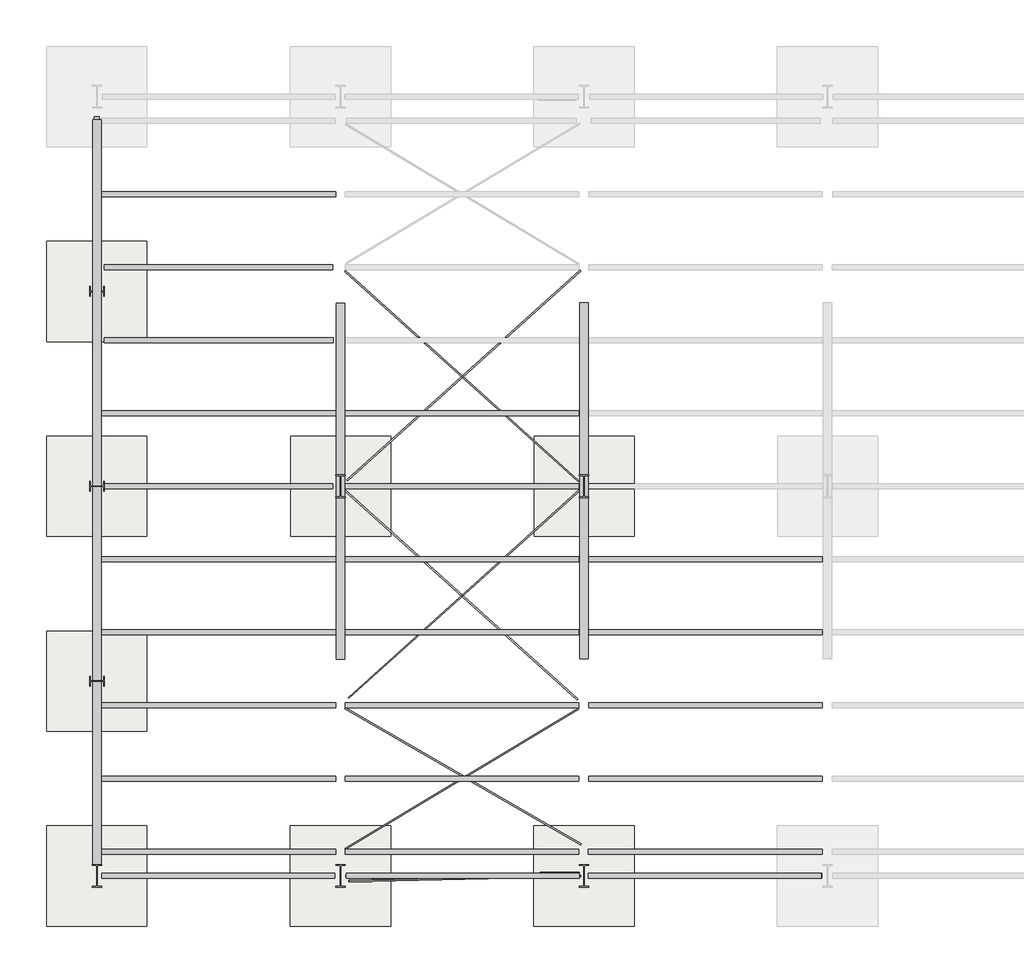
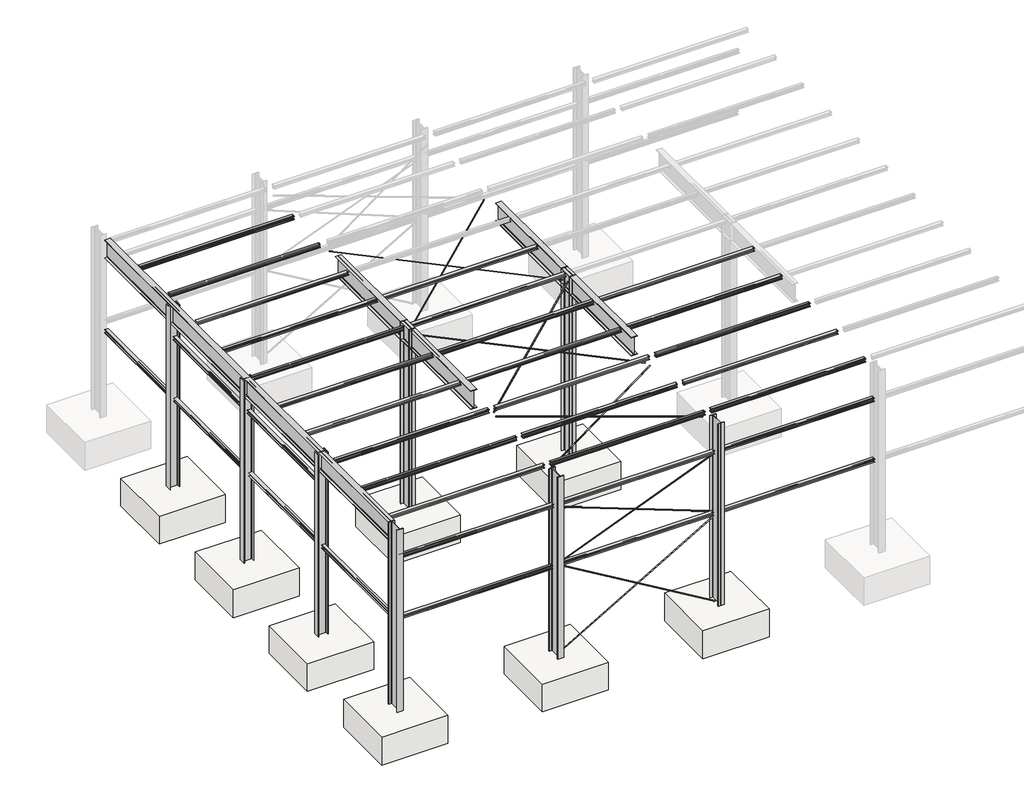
# Not in any storey, part 1 of 2: 47 beams, 8 columns, 8 slabs.
"""IFC4 building model written with IfcOpenShell, lengths in millimetres."""

from ifc_helpers import new_model, si_unit, origin, place, context, project, spatial, transform, mapped, element, save
from components import round_bars_rb_1_5189ba87, round_bars_rb_1_6c3d38b6, round_bars_rb_1_81fd8ecd, round_bars_rb_1_26d8f1e4, round_bars_rb_1_baf046db, round_bars_rb_1_5fd52b35, round_bars_rb_1_d64333eb, round_bars_rb_1_b22cf1d7, round_bars_rb_1_459af232, round_bars_rb_1_904f9b2c, w_shapes_w24x55_664a4076, w_shapes_w24x55_d6c5d518, w_shapes_w4x13_fa7221a6, w_shapes_w4x13_89d5f31c, w_shapes_w4x13_afdda7a2, w_shapes_w4x13_af738b31, w_shapes_w4x13_2dc6f00b, w_shapes_w4x13_24e16d4c, w_shapes_w4x13_0f4ee4ba, w_shapes_w4x13_7e7178cb, w_shapes_w4x13_9ad04f5a, w_shapes_w4x13_fcd76e32, w_shapes_w4x13_d1906dc2, w_shapes_w4x13_eaaf8195, w_shapes_w4x13_ff375d3b, w_shapes_column_w12x40_08ec2019, w_shapes_column_w18x65_76ea03f4, slab_95bb2fbc

model = new_model("IFC4")

# Units and contexts
model_context = context("Model", 3, world=origin())
ifc_project = project(units=[si_unit("LENGTHUNIT", "METRE", prefix="MILLI")], contexts=[model_context])

# Site, building
site = spatial("IfcSite", under=ifc_project)
building = spatial("IfcBuilding", under=site)

# Beams
placement = place(None, origin())
round_bars_rb_1_shape = round_bars_rb_1_5189ba87(model_context)
element("IfcBeam", 1, ObjectType="Round Bars : RB 1", at=placement, inside=building, context=model_context, shape_type="MappedRepresentation", body=[
    mapped(round_bars_rb_1_shape, transform((10925.4021299, 3659.8471425, 5700.0), x_axis=(0.8574929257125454, 0.5144957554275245, 0.0), y_axis=(-0.5144957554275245, 0.8574929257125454, 0.0), z_axis=(0.0, 0.0, 1.0))),
])
round_bars_rb_1_2_shape = round_bars_rb_1_6c3d38b6(model_context)
element("IfcBeam", 2, ObjectType="Round Bars : RB 1", at=placement, inside=building, context=model_context, shape_type="MappedRepresentation", body=[
    mapped(round_bars_rb_1_2_shape, transform((10900.2630098, 7439.5776047, 5700.0), x_axis=(-0.743294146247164, 0.6689647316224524, 0.0), y_axis=(-0.6689647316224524, -0.743294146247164, 0.0), z_axis=(0.0, 0.0, 1.0))),
])
round_bars_rb_1_3_shape = round_bars_rb_1_81fd8ecd(model_context)
element("IfcBeam", 3, ObjectType="Round Bars : RB 1", at=placement, inside=building, context=model_context, shape_type="MappedRepresentation", body=[
    mapped(round_bars_rb_1_3_shape, transform((10948.8006477, 3708.5392441, 5700.0), x_axis=(-0.8660254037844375, 0.5000000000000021, 0.0), y_axis=(-0.5000000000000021, -0.8660254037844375, 0.0), z_axis=(0.0, 0.0, 1.0))),
])
round_bars_rb_1_4_shape = round_bars_rb_1_26d8f1e4(model_context)
element("IfcBeam", 4, ObjectType="Round Bars : RB 1", at=placement, inside=building, context=model_context, shape_type="MappedRepresentation", body=[
    mapped(round_bars_rb_1_4_shape, transform((10993.778202, 7471.3482762, 5700.0), x_axis=(0.7435040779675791, 0.6687314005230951, 0.0), y_axis=(-0.6687314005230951, 0.7435040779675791, 0.0), z_axis=(0.0, 0.0, 1.0))),
])
round_bars_rb_1_5_shape = round_bars_rb_1_baf046db(model_context)
element("IfcBeam", 5, ObjectType="Round Bars : RB 1", at=placement, inside=building, context=model_context, shape_type="MappedRepresentation", body=[
    mapped(round_bars_rb_1_5_shape, transform((10961.7881065, 11937.6058555, 5700.0), x_axis=(-0.7438151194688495, -0.6683854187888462, 0.0), y_axis=(0.6683854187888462, -0.7438151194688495, 0.0), z_axis=(0.0, 0.0, 1.0))),
])
round_bars_rb_1_6_shape = round_bars_rb_1_5fd52b35(model_context)
element("IfcBeam", 6, ObjectType="Round Bars : RB 1", at=placement, inside=building, context=model_context, shape_type="MappedRepresentation", body=[
    mapped(round_bars_rb_1_6_shape, transform((10924.5653885, 11923.3512581, 5700.0), x_axis=(0.7430857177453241, -0.6691962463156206, 0.0), y_axis=(0.6691962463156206, 0.7430857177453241, 0.0), z_axis=(0.0, 0.0, 1.0))),
])
round_bars_rb_1_7_shape = round_bars_rb_1_d64333eb(model_context)
element("IfcBeam", 7, ObjectType="Round Bars : RB 1", at=placement, inside=building, context=model_context, shape_type="MappedRepresentation", body=[
    mapped(round_bars_rb_1_7_shape, transform((10976.7111916, 1611.4257633, 1474.4222811), x_axis=(-0.8546127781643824, -0.018276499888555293, 0.5189440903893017), y_axis=(0.02138081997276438, -0.9997714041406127, 0.0), z_axis=(0.5188254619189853, 0.011095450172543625, 0.8548081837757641))),
])
round_bars_rb_1_8_shape = round_bars_rb_1_b22cf1d7(model_context)
element("IfcBeam", 8, ObjectType="Round Bars : RB 1", at=placement, inside=building, context=model_context, shape_type="MappedRepresentation", body=[
    mapped(round_bars_rb_1_8_shape, transform((10942.525333, 1696.6522845, 1411.6631922), x_axis=(0.8696781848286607, 0.011908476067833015, 0.49347547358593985), y_axis=(-0.013691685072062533, 0.9999062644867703, 0.0), z_axis=(-0.4934292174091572, -0.006756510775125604, 0.8697597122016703))),
])
round_bars_rb_1_9_shape = round_bars_rb_1_459af232(model_context)
element("IfcBeam", 9, ObjectType="Round Bars : RB 1", at=placement, inside=building, context=model_context, shape_type="MappedRepresentation", body=[
    mapped(round_bars_rb_1_9_shape, transform((10907.7782245, 1662.6892441, 3929.0266073), x_axis=(0.9292547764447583, 0.0, 0.3694395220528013), y_axis=(0.0, 1.0, 0.0), z_axis=(-0.3694395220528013, 0.0, 0.9292547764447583))),
])
round_bars_rb_1_10_shape = round_bars_rb_1_904f9b2c(model_context)
element("IfcBeam", 10, ObjectType="Round Bars : RB 1", at=placement, inside=building, context=model_context, shape_type="MappedRepresentation", body=[
    mapped(round_bars_rb_1_10_shape, transform((10919.9034766, 1662.6892441, 3916.6147218), x_axis=(-0.9350288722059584, 0.0, 0.3545715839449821), y_axis=(0.0, -1.0, 0.0), z_axis=(0.35457158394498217, 0.0, 0.9350288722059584))),
])
w_shapes_w24x55_shape = w_shapes_w24x55_664a4076(model_context)
element("IfcBeam", 11, ObjectType="W Shapes : W24X55", at=placement, inside=building, context=model_context, shape_type="MappedRepresentation", body=[
    mapped(w_shapes_w24x55_shape, transform((8430.1389659, 9763.2892441, 5700.28), x_axis=(0.0, -1.0, 0.0), y_axis=(1.0, 0.0, 0.0), z_axis=(0.0, 0.0, 1.0))),
])
element("IfcBeam", 12, ObjectType="W Shapes : W24X55", at=placement, inside=building, context=model_context, shape_type="MappedRepresentation", body=[
    mapped(w_shapes_w24x55_shape, transform((13430.1389659, 9779.1642441, 5700.28), x_axis=(0.0, -1.0, 0.0), y_axis=(1.0, 0.0, 0.0), z_axis=(0.0, 0.0, 1.0))),
])
w_shapes_w24x55_2_shape = w_shapes_w24x55_d6c5d518(model_context)
element("IfcBeam", 13, ObjectType="W Shapes : W24X55", at=placement, inside=building, context=model_context, shape_type="MappedRepresentation", body=[
    mapped(w_shapes_w24x55_2_shape, transform((3430.1389659, 9546.2142441, 5700.28), x_axis=(0.0, -1.0, 0.0), y_axis=(1.0, 0.0, 0.0), z_axis=(0.0, 0.0, 1.0))),
])
w_shapes_w4x13_shape = w_shapes_w4x13_fa7221a6(model_context)
element("IfcBeam", 14, ObjectType="W Shapes : W4X13", at=placement, inside=building, context=model_context, shape_type="MappedRepresentation", body=[
    mapped(w_shapes_w4x13_shape, transform((5924.8004502, 1662.6892441, 4956.568), x_axis=(1.0, 0.0, 0.0), y_axis=(0.0, 1.0, 0.0), z_axis=(0.0, 0.0, 1.0))),
])
element("IfcBeam", 15, ObjectType="W Shapes : W4X13", at=placement, inside=building, context=model_context, shape_type="MappedRepresentation", body=[
    mapped(w_shapes_w4x13_shape, transform((10941.1962878, 1662.6892441, 4956.568), x_axis=(1.0, 0.0, 0.0), y_axis=(0.0, 1.0, 0.0), z_axis=(0.0, 0.0, 1.0))),
])
element("IfcBeam", 16, ObjectType="W Shapes : W4X13", at=placement, inside=building, context=model_context, shape_type="MappedRepresentation", body=[
    mapped(w_shapes_w4x13_shape, transform((15906.7791302, 1662.6892441, 4956.568), x_axis=(1.0, 0.0, 0.0), y_axis=(0.0, 1.0, 0.0), z_axis=(0.0, 0.0, 1.0))),
])
w_shapes_w4x13_2_shape = w_shapes_w4x13_89d5f31c(model_context)
element("IfcBeam", 17, ObjectType="W Shapes : W4X13", at=placement, inside=building, context=model_context, shape_type="MappedRepresentation", body=[
    mapped(w_shapes_w4x13_2_shape, transform((3430.1389659, 11679.4559841, 4956.568), x_axis=(0.0, -1.0, 0.0), y_axis=(1.0, 0.0, 0.0), z_axis=(0.0, 0.0, 1.0))),
])
element("IfcBeam", 18, ObjectType="W Shapes : W4X13", at=placement, inside=building, context=model_context, shape_type="MappedRepresentation", body=[
    mapped(w_shapes_w4x13_2_shape, transform((3430.1389659, 7685.9021334, 4956.568), x_axis=(0.0, -1.0, 0.0), y_axis=(1.0, 0.0, 0.0), z_axis=(0.0, 0.0, 1.0))),
])
w_shapes_w4x13_3_shape = w_shapes_w4x13_afdda7a2(model_context)
element("IfcBeam", 19, ObjectType="W Shapes : W4X13", at=placement, inside=building, context=model_context, shape_type="MappedRepresentation", body=[
    mapped(w_shapes_w4x13_3_shape, transform((5932.0389659, 2162.6892441, 5947.168), x_axis=(1.0, 0.0, 0.0), y_axis=(0.0, 1.0, 0.0), z_axis=(0.0, 0.0, 1.0))),
])
element("IfcBeam", 20, ObjectType="W Shapes : W4X13", at=placement, inside=building, context=model_context, shape_type="MappedRepresentation", body=[
    mapped(w_shapes_w4x13_3_shape, transform((10928.2389659, 2162.6892441, 5947.168), x_axis=(1.0, 0.0, 0.0), y_axis=(0.0, 1.0, 0.0), z_axis=(0.0, 0.0, 1.0))),
])
element("IfcBeam", 21, ObjectType="W Shapes : W4X13", at=placement, inside=building, context=model_context, shape_type="MappedRepresentation", body=[
    mapped(w_shapes_w4x13_3_shape, transform((15919.3389659, 2162.6892441, 5947.168), x_axis=(1.0, 0.0, 0.0), y_axis=(0.0, 1.0, 0.0), z_axis=(0.0, 0.0, 1.0))),
])
element("IfcBeam", 22, ObjectType="W Shapes : W4X13", at=placement, inside=building, context=model_context, shape_type="MappedRepresentation", body=[
    mapped(w_shapes_w4x13_3_shape, transform((5932.0389659, 3662.6892441, 5947.168), x_axis=(1.0, 0.0, 0.0), y_axis=(0.0, 1.0, 0.0), z_axis=(0.0, 0.0, 1.0))),
])
element("IfcBeam", 23, ObjectType="W Shapes : W4X13", at=placement, inside=building, context=model_context, shape_type="MappedRepresentation", body=[
    mapped(w_shapes_w4x13_3_shape, transform((10928.2389659, 3662.6892441, 5947.168), x_axis=(1.0, 0.0, 0.0), y_axis=(0.0, 1.0, 0.0), z_axis=(0.0, 0.0, 1.0))),
])
element("IfcBeam", 24, ObjectType="W Shapes : W4X13", at=placement, inside=building, context=model_context, shape_type="MappedRepresentation", body=[
    mapped(w_shapes_w4x13_3_shape, transform((15925.6889659, 3662.6892441, 5947.168), x_axis=(1.0, 0.0, 0.0), y_axis=(0.0, 1.0, 0.0), z_axis=(0.0, 0.0, 1.0))),
])
element("IfcBeam", 25, ObjectType="W Shapes : W4X13", at=placement, inside=building, context=model_context, shape_type="MappedRepresentation", body=[
    mapped(w_shapes_w4x13_3_shape, transform((5932.0389659, 5162.6892441, 5947.168), x_axis=(1.0, 0.0, 0.0), y_axis=(0.0, 1.0, 0.0), z_axis=(0.0, 0.0, 1.0))),
])
element("IfcBeam", 26, ObjectType="W Shapes : W4X13", at=placement, inside=building, context=model_context, shape_type="MappedRepresentation", body=[
    mapped(w_shapes_w4x13_3_shape, transform((10928.2389659, 5162.6892441, 5947.168), x_axis=(1.0, 0.0, 0.0), y_axis=(0.0, 1.0, 0.0), z_axis=(0.0, 0.0, 1.0))),
])
element("IfcBeam", 27, ObjectType="W Shapes : W4X13", at=placement, inside=building, context=model_context, shape_type="MappedRepresentation", body=[
    mapped(w_shapes_w4x13_3_shape, transform((15925.6889659, 5162.6892441, 5947.168), x_axis=(1.0, 0.0, 0.0), y_axis=(0.0, 1.0, 0.0), z_axis=(0.0, 0.0, 1.0))),
])
element("IfcBeam", 28, ObjectType="W Shapes : W4X13", at=placement, inside=building, context=model_context, shape_type="MappedRepresentation", body=[
    mapped(w_shapes_w4x13_3_shape, transform((5932.0389659, 6662.6892441, 5947.168), x_axis=(1.0, 0.0, 0.0), y_axis=(0.0, 1.0, 0.0), z_axis=(0.0, 0.0, 1.0))),
])
element("IfcBeam", 29, ObjectType="W Shapes : W4X13", at=placement, inside=building, context=model_context, shape_type="MappedRepresentation", body=[
    mapped(w_shapes_w4x13_3_shape, transform((10928.2389659, 6662.6892441, 5947.168), x_axis=(1.0, 0.0, 0.0), y_axis=(0.0, 1.0, 0.0), z_axis=(0.0, 0.0, 1.0))),
])
element("IfcBeam", 30, ObjectType="W Shapes : W4X13", at=placement, inside=building, context=model_context, shape_type="MappedRepresentation", body=[
    mapped(w_shapes_w4x13_3_shape, transform((15925.6889659, 6662.6892441, 5947.168), x_axis=(1.0, 0.0, 0.0), y_axis=(0.0, 1.0, 0.0), z_axis=(0.0, 0.0, 1.0))),
])
element("IfcBeam", 31, ObjectType="W Shapes : W4X13", at=placement, inside=building, context=model_context, shape_type="MappedRepresentation", body=[
    mapped(w_shapes_w4x13_3_shape, transform((5932.0389659, 8162.6892441, 5947.168), x_axis=(1.0, 0.0, 0.0), y_axis=(0.0, 1.0, 0.0), z_axis=(0.0, 0.0, 1.0))),
])
element("IfcBeam", 32, ObjectType="W Shapes : W4X13", at=placement, inside=building, context=model_context, shape_type="MappedRepresentation", body=[
    mapped(w_shapes_w4x13_3_shape, transform((10928.2389659, 8162.6892441, 5947.168), x_axis=(1.0, 0.0, 0.0), y_axis=(0.0, 1.0, 0.0), z_axis=(0.0, 0.0, 1.0))),
])
element("IfcBeam", 33, ObjectType="W Shapes : W4X13", at=placement, inside=building, context=model_context, shape_type="MappedRepresentation", body=[
    mapped(w_shapes_w4x13_3_shape, transform((15925.6889659, 8162.6892441, 5947.168), x_axis=(1.0, 0.0, 0.0), y_axis=(0.0, 1.0, 0.0), z_axis=(0.0, 0.0, 1.0))),
])
element("IfcBeam", 34, ObjectType="W Shapes : W4X13", at=placement, inside=building, context=model_context, shape_type="MappedRepresentation", body=[
    mapped(w_shapes_w4x13_3_shape, transform((10928.2389659, 9662.6892441, 5947.168), x_axis=(1.0, 0.0, 0.0), y_axis=(0.0, 1.0, 0.0), z_axis=(0.0, 0.0, 1.0))),
])
w_shapes_w4x13_4_shape = w_shapes_w4x13_af738b31(model_context)
element("IfcBeam", 35, ObjectType="W Shapes : W4X13", at=placement, inside=building, context=model_context, shape_type="MappedRepresentation", body=[
    mapped(w_shapes_w4x13_4_shape, transform((5932.0389659, 15662.6892441, 5947.168), x_axis=(1.0, 0.0, 0.0), y_axis=(0.0, 1.0, 0.0), z_axis=(0.0, 0.0, 1.0))),
])
element("IfcBeam", 36, ObjectType="W Shapes : W4X13", at=placement, inside=building, context=model_context, shape_type="MappedRepresentation", body=[
    mapped(w_shapes_w4x13_4_shape, transform((5932.0389659, 11162.6892441, 5947.168), x_axis=(1.0, 0.0, 0.0), y_axis=(0.0, 1.0, 0.0), z_axis=(0.0, 0.0, 1.0))),
])
element("IfcBeam", 37, ObjectType="W Shapes : W4X13", at=placement, inside=building, context=model_context, shape_type="MappedRepresentation", body=[
    mapped(w_shapes_w4x13_4_shape, transform((10928.2389659, 11162.6892441, 5947.168), x_axis=(1.0, 0.0, 0.0), y_axis=(0.0, 1.0, 0.0), z_axis=(0.0, 0.0, 1.0))),
])
w_shapes_w4x13_5_shape = w_shapes_w4x13_2dc6f00b(model_context)
element("IfcBeam", 38, ObjectType="W Shapes : W4X13", at=placement, inside=building, context=model_context, shape_type="MappedRepresentation", body=[
    mapped(w_shapes_w4x13_5_shape, transform((5932.0389659, 12662.6892441, 5947.168), x_axis=(1.0, 0.0, 0.0), y_axis=(0.0, 1.0, 0.0), z_axis=(0.0, 0.0, 1.0))),
])
w_shapes_w4x13_6_shape = w_shapes_w4x13_24e16d4c(model_context)
element("IfcBeam", 39, ObjectType="W Shapes : W4X13", at=placement, inside=building, context=model_context, shape_type="MappedRepresentation", body=[
    mapped(w_shapes_w4x13_6_shape, transform((5928.2389659, 9662.6892441, 5947.168), x_axis=(1.0, 0.0, 0.0), y_axis=(0.0, 1.0, 0.0), z_axis=(0.0, 0.0, 1.0))),
])
w_shapes_w4x13_7_shape = w_shapes_w4x13_0f4ee4ba(model_context)
element("IfcBeam", 40, ObjectType="W Shapes : W4X13", at=placement, inside=building, context=model_context, shape_type="MappedRepresentation", body=[
    mapped(w_shapes_w4x13_7_shape, transform((5928.2389659, 14162.6892441, 5947.168), x_axis=(1.0, 0.0, 0.0), y_axis=(0.0, 1.0, 0.0), z_axis=(0.0, 0.0, 1.0))),
])
w_shapes_w4x13_8_shape = w_shapes_w4x13_7e7178cb(model_context)
element("IfcBeam", 41, ObjectType="W Shapes : W4X13", at=placement, inside=building, context=model_context, shape_type="MappedRepresentation", body=[
    mapped(w_shapes_w4x13_8_shape, transform((3430.1389659, 15605.7892441, 2947.168), x_axis=(0.0, -1.0, 0.0), y_axis=(1.0, 0.0, 0.0), z_axis=(0.0, 0.0, 1.0))),
])
w_shapes_w4x13_9_shape = w_shapes_w4x13_9ad04f5a(model_context)
element("IfcBeam", 42, ObjectType="W Shapes : W4X13", at=placement, inside=building, context=model_context, shape_type="MappedRepresentation", body=[
    mapped(w_shapes_w4x13_9_shape, transform((3430.1389659, 11689.1703097, 2947.168), x_axis=(0.0, -1.0, 0.0), y_axis=(1.0, 0.0, 0.0), z_axis=(0.0, 0.0, 1.0))),
])
w_shapes_w4x13_10_shape = w_shapes_w4x13_fcd76e32(model_context)
element("IfcBeam", 43, ObjectType="W Shapes : W4X13", at=placement, inside=building, context=model_context, shape_type="MappedRepresentation", body=[
    mapped(w_shapes_w4x13_10_shape, transform((3430.1389659, 7656.5892441, 2947.168), x_axis=(0.0, -1.0, 0.0), y_axis=(1.0, 0.0, 0.0), z_axis=(0.0, 0.0, 1.0))),
])
w_shapes_w4x13_11_shape = w_shapes_w4x13_d1906dc2(model_context)
element("IfcBeam", 44, ObjectType="W Shapes : W4X13", at=placement, inside=building, context=model_context, shape_type="MappedRepresentation", body=[
    mapped(w_shapes_w4x13_11_shape, transform((3430.1389659, 3726.4392441, 2947.168), x_axis=(0.0, -1.0, 0.0), y_axis=(1.0, 0.0, 0.0), z_axis=(0.0, 0.0, 1.0))),
])
w_shapes_w4x13_12_shape = w_shapes_w4x13_eaaf8195(model_context)
element("IfcBeam", 45, ObjectType="W Shapes : W4X13", at=placement, inside=building, context=model_context, shape_type="MappedRepresentation", body=[
    mapped(w_shapes_w4x13_12_shape, transform((5928.2389659, 1662.6892441, 2947.168), x_axis=(1.0, 0.0, 0.0), y_axis=(0.0, 1.0, 0.0), z_axis=(0.0, 0.0, 1.0))),
])
element("IfcBeam", 46, ObjectType="W Shapes : W4X13", at=placement, inside=building, context=model_context, shape_type="MappedRepresentation", body=[
    mapped(w_shapes_w4x13_12_shape, transform((10940.9389659, 1662.6892441, 2947.168), x_axis=(1.0, 0.0, 0.0), y_axis=(0.0, 1.0, 0.0), z_axis=(0.0, 0.0, 1.0))),
])
w_shapes_w4x13_13_shape = w_shapes_w4x13_ff375d3b(model_context)
element("IfcBeam", 47, ObjectType="W Shapes : W4X13", at=placement, inside=building, context=model_context, shape_type="MappedRepresentation", body=[
    mapped(w_shapes_w4x13_13_shape, transform((15944.7389659, 1662.6892441, 2947.168), x_axis=(1.0, 0.0, 0.0), y_axis=(0.0, 1.0, 0.0), z_axis=(0.0, 0.0, 1.0))),
])

# Columns
w_shapes_column_w12x40_shape = w_shapes_column_w12x40_08ec2019(model_context)
element("IfcColumn", 48, ObjectType="W Shapes-Column : W12X40", at=placement, inside=building, context=model_context, shape_type="MappedRepresentation", body=[
    mapped(w_shapes_column_w12x40_shape, transform((3430.1389659, 13662.6892441, 0.0), x_axis=(0.0, -1.0, 0.0), y_axis=(1.0, 0.0, 0.0), z_axis=(0.0, 0.0, 1.0))),
])
element("IfcColumn", 49, ObjectType="W Shapes-Column : W12X40", at=placement, inside=building, context=model_context, shape_type="MappedRepresentation", body=[
    mapped(w_shapes_column_w12x40_shape, transform((3430.1389659, 9662.6892441, 0.0), x_axis=(0.0, -1.0, 0.0), y_axis=(1.0, 0.0, 0.0), z_axis=(0.0, 0.0, 1.0))),
])
element("IfcColumn", 50, ObjectType="W Shapes-Column : W12X40", at=placement, inside=building, context=model_context, shape_type="MappedRepresentation", body=[
    mapped(w_shapes_column_w12x40_shape, transform((3430.1389659, 5662.6892441, 0.0), x_axis=(0.0, -1.0, 0.0), y_axis=(1.0, 0.0, 0.0), z_axis=(0.0, 0.0, 1.0))),
])
w_shapes_column_w18x65_shape = w_shapes_column_w18x65_76ea03f4(model_context)
element("IfcColumn", 51, ObjectType="W Shapes-Column : W18X65", at=placement, inside=building, context=model_context, shape_type="MappedRepresentation", body=[
    mapped(w_shapes_column_w18x65_shape, transform((3430.1389659, 1662.6892441, 0.0), x_axis=(1.0, 0.0, 0.0), y_axis=(0.0, 1.0, 0.0), z_axis=(0.0, 0.0, 1.0))),
])
element("IfcColumn", 52, ObjectType="W Shapes-Column : W18X65", at=placement, inside=building, context=model_context, shape_type="MappedRepresentation", body=[
    mapped(w_shapes_column_w18x65_shape, transform((8430.1389659, 1662.6892441, 0.0), x_axis=(1.0, 0.0, 0.0), y_axis=(0.0, 1.0, 0.0), z_axis=(0.0, 0.0, 1.0))),
])
element("IfcColumn", 53, ObjectType="W Shapes-Column : W18X65", at=placement, inside=building, context=model_context, shape_type="MappedRepresentation", body=[
    mapped(w_shapes_column_w18x65_shape, transform((13430.1389659, 1662.6892441, 0.0), x_axis=(1.0, 0.0, 0.0), y_axis=(0.0, 1.0, 0.0), z_axis=(0.0, 0.0, 1.0))),
])
element("IfcColumn", 54, ObjectType="W Shapes-Column : W18X65", at=placement, inside=building, context=model_context, shape_type="MappedRepresentation", body=[
    mapped(w_shapes_column_w18x65_shape, transform((8430.1389659, 9662.6892441, 0.0), x_axis=(1.0, 0.0, 0.0), y_axis=(0.0, 1.0, 0.0), z_axis=(0.0, 0.0, 1.0))),
])
element("IfcColumn", 55, ObjectType="W Shapes-Column : W18X65", at=placement, inside=building, context=model_context, shape_type="MappedRepresentation", body=[
    mapped(w_shapes_column_w18x65_shape, transform((13430.1389659, 9662.6892441, 0.0), x_axis=(1.0, 0.0, 0.0), y_axis=(0.0, 1.0, 0.0), z_axis=(0.0, 0.0, 1.0))),
])

# Slabs
slab_shape = slab_95bb2fbc(model_context)
element("IfcSlab", 56, ObjectType="Pile Cap-Rectangular : 81\" x 81\" x 36\"", at=placement, inside=building, context=model_context, shape_type="MappedRepresentation", body=[
    mapped(slab_shape, transform((13430.1389659, 1662.6892441, 0.0), x_axis=(1.0, 0.0, 0.0), y_axis=(0.0, 1.0, 0.0), z_axis=(0.0, 0.0, 1.0))),
])
element("IfcSlab", 57, ObjectType="Pile Cap-Rectangular : 81\" x 81\" x 36\"", at=placement, inside=building, context=model_context, shape_type="MappedRepresentation", body=[
    mapped(slab_shape, transform((8430.1389659, 1662.6892441, 0.0), x_axis=(1.0, 0.0, 0.0), y_axis=(0.0, 1.0, 0.0), z_axis=(0.0, 0.0, 1.0))),
])
element("IfcSlab", 58, ObjectType="Pile Cap-Rectangular : 81\" x 81\" x 36\"", at=placement, inside=building, context=model_context, shape_type="MappedRepresentation", body=[
    mapped(slab_shape, transform((3430.1389659, 1662.6892441, 0.0), x_axis=(1.0, 0.0, 0.0), y_axis=(0.0, 1.0, 0.0), z_axis=(0.0, 0.0, 1.0))),
])
element("IfcSlab", 59, ObjectType="Pile Cap-Rectangular : 81\" x 81\" x 36\"", at=placement, inside=building, context=model_context, shape_type="MappedRepresentation", body=[
    mapped(slab_shape, transform((3430.1389659, 5662.6892441, 0.0), x_axis=(1.0, 0.0, 0.0), y_axis=(0.0, 1.0, 0.0), z_axis=(0.0, 0.0, 1.0))),
])
element("IfcSlab", 60, ObjectType="Pile Cap-Rectangular : 81\" x 81\" x 36\"", at=placement, inside=building, context=model_context, shape_type="MappedRepresentation", body=[
    mapped(slab_shape, transform((3430.1389659, 9662.6892441, 0.0), x_axis=(1.0, 0.0, 0.0), y_axis=(0.0, 1.0, 0.0), z_axis=(0.0, 0.0, 1.0))),
])
element("IfcSlab", 61, ObjectType="Pile Cap-Rectangular : 81\" x 81\" x 36\"", at=placement, inside=building, context=model_context, shape_type="MappedRepresentation", body=[
    mapped(slab_shape, transform((3430.1389659, 13662.6892441, 0.0), x_axis=(1.0, 0.0, 0.0), y_axis=(0.0, 1.0, 0.0), z_axis=(0.0, 0.0, 1.0))),
])
element("IfcSlab", 62, ObjectType="Pile Cap-Rectangular : 81\" x 81\" x 36\"", at=placement, inside=building, context=model_context, shape_type="MappedRepresentation", body=[
    mapped(slab_shape, transform((8434.8389659, 9662.6892441, 0.0), x_axis=(1.0, 0.0, 0.0), y_axis=(0.0, 1.0, 0.0), z_axis=(0.0, 0.0, 1.0))),
])
element("IfcSlab", 63, ObjectType="Pile Cap-Rectangular : 81\" x 81\" x 36\"", at=placement, inside=building, context=model_context, shape_type="MappedRepresentation", body=[
    mapped(slab_shape, transform((13434.8389659, 9662.6892441, 0.0), x_axis=(1.0, 0.0, 0.0), y_axis=(0.0, 1.0, 0.0), z_axis=(0.0, 0.0, 1.0))),
])

save(model, "model.ifc")
